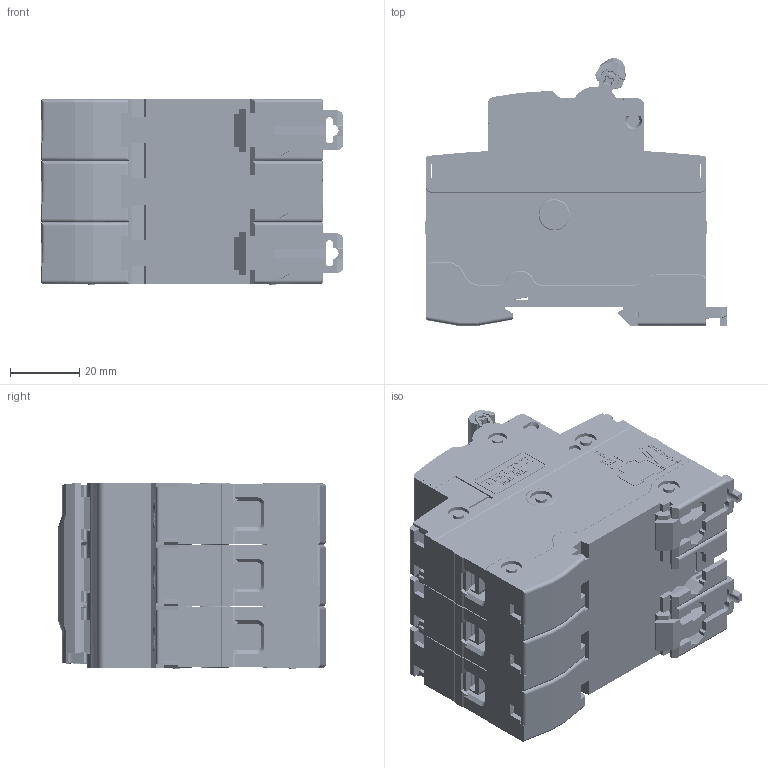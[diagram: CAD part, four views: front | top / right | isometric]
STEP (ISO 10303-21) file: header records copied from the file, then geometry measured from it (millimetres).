
FILE_DESCRIPTION((''),'2;1');
FILE_NAME('10KA_CDB9H_3P_1255002_SW0001','2019-10-22T',('gang.wang'),(''),'PRO/ENGINEER BY PARAMETRIC TECHNOLOGY CORPORATION, 2015440','PRO/ENGINEER BY PARAMETRIC TECHNOLOGY CORPORATION, 2015440','');
FILE_SCHEMA(('CONFIG_CONTROL_DESIGN'));
Products named in the file (1): 10KA_CDB9H_3P_1255002_SW0001
Bounding box: 87.18 x 77.08 x 53.45 mm (x, y, z)
Volume: 218442.8 mm3; surface area: 66566 mm2
Topology: 1 solids, 7 shells, 9735 faces, 26993 edges, 17378 vertices
Faces by surface type: plane 5656, cylinder 1727, extrusion 1545, cone 276, torus 273, sphere 144, bspline 114
Entity records: 329891 total; most frequent: CARTESIAN_POINT 87464, ORIENTED_EDGE 53686, DIRECTION 44096, EDGE_CURVE 26843, VECTOR 20370, LINE 18825, VERTEX_POINT 17375, AXIS2_PLACEMENT_3D 11863
